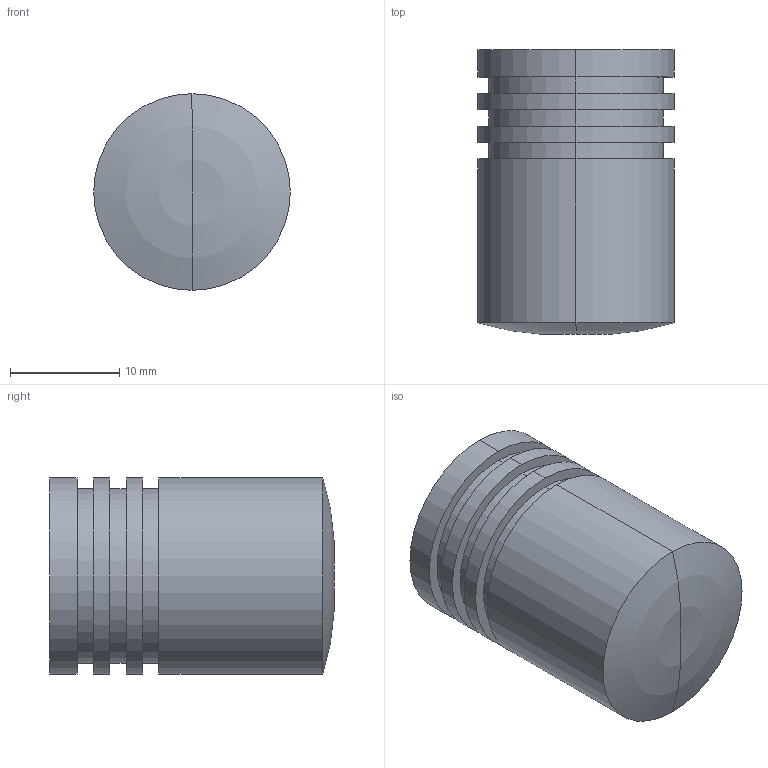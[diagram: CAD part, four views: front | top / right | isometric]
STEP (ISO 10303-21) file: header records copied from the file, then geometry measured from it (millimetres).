
FILE_DESCRIPTION( ( '' ), '1' );
FILE_NAME( 'C:/Documents and Settings/Nikhil/Desktop/Nik/Done/9070264.stp', '2013-10-24T05:28:13', ( '' ), ( '' ), ' ', ' ', ' ' );
FILE_SCHEMA( ( 'automotive_design' ) );
Length unit declared in the file: millimetre
Products named in the file (1): 1
Bounding box: 18 x 26.06 x 18 mm (x, y, z)
Volume: 6126.1 mm3; surface area: 2345.6 mm2
Topology: 1 solids, 1 shells, 26 faces, 52 edges, 33 vertices
Faces by surface type: cylinder 16, plane 8, torus 2
Entity records: 1327 total; most frequent: DIRECTION 138, STYLED_ITEM 110, PRESENTATION_STYLE_ASSIGNMENT 110, CARTESIAN_POINT 110, COLOUR_RGB 110, ORIENTED_EDGE 100, AXIS2_PLACEMENT_3D 61, EDGE_CURVE 50
